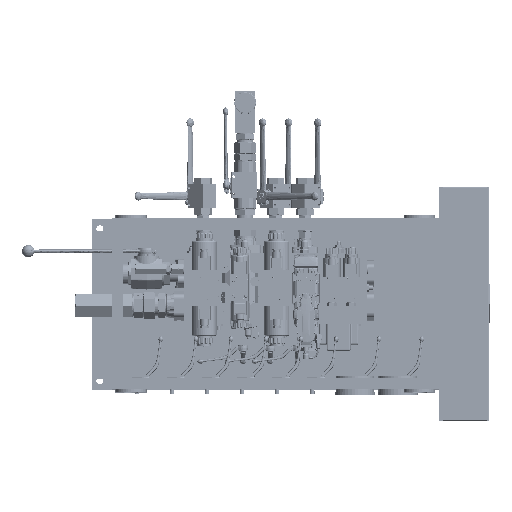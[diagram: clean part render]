
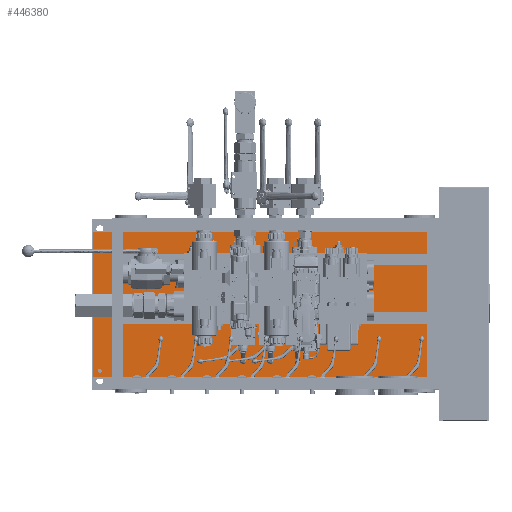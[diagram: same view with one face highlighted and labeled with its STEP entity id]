
A CAD part, top view. The second image highlights one B-rep face of the part: STEP entity #446380.
In plain terms, the highlighted planar face has unit normal (0, 0, 1).
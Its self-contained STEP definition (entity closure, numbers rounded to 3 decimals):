
#14816=CIRCLE('',#467816,5.);
#23050=ORIENTED_EDGE('',*,*,#128668,.F.);
#23051=ORIENTED_EDGE('',*,*,#128661,.T.);
#23052=ORIENTED_EDGE('',*,*,#128664,.T.);
#23053=ORIENTED_EDGE('',*,*,#128666,.T.);
#23054=ORIENTED_EDGE('',*,*,#128667,.T.);
#128661=EDGE_CURVE('',#181488,#181487,#217016,.T.);
#128664=EDGE_CURVE('',#181487,#181489,#217019,.T.);
#128666=EDGE_CURVE('',#181489,#181490,#217021,.T.);
#128667=EDGE_CURVE('',#181490,#181488,#217022,.T.);
#128668=EDGE_CURVE('',#181491,#181491,#14816,.T.);
#181487=VERTEX_POINT('',#589026);
#181488=VERTEX_POINT('',#589028);
#181489=VERTEX_POINT('',#589032);
#181490=VERTEX_POINT('',#589036);
#181491=VERTEX_POINT('',#589042);
#217016=LINE('',#589027,#255515);
#217019=LINE('',#589033,#255518);
#217021=LINE('',#589037,#255520);
#217022=LINE('',#589039,#255521);
#255515=VECTOR('',#495696,1000.);
#255518=VECTOR('',#495701,1000.);
#255520=VECTOR('',#495705,1000.);
#255521=VECTOR('',#495708,1000.);
#293787=EDGE_LOOP('',(#23050));
#293788=EDGE_LOOP('',(#23051,#23052,#23053,#23054));
#318200=FACE_BOUND('',#293787,.T.);
#318201=FACE_BOUND('',#293788,.T.);
#342667=PLANE('',#467815);
#446380=ADVANCED_FACE('',(#318200,#318201),#342667,.T.);
#467815=AXIS2_PLACEMENT_3D('',#589040,#495709,#495710);
#467816=AXIS2_PLACEMENT_3D('',#589041,#495711,#495712);
#495696=DIRECTION('',(1.,0.,0.));
#495701=DIRECTION('',(0.,1.,0.));
#495705=DIRECTION('',(-1.,0.,0.));
#495708=DIRECTION('',(0.,-1.,0.));
#495709=DIRECTION('',(0.,0.,1.));
#495710=DIRECTION('',(1.,0.,0.));
#495711=DIRECTION('',(0.,0.,1.));
#495712=DIRECTION('',(1.,0.,0.));
#589026=CARTESIAN_POINT('',(467.,-187.,153.));
#589027=CARTESIAN_POINT('',(-467.,-187.,153.));
#589028=CARTESIAN_POINT('',(-467.,-187.,153.));
#589032=CARTESIAN_POINT('',(467.,187.,153.));
#589033=CARTESIAN_POINT('',(467.,-187.,153.));
#589036=CARTESIAN_POINT('',(-467.,187.,153.));
#589037=CARTESIAN_POINT('',(467.,187.,153.));
#589039=CARTESIAN_POINT('',(-467.,187.,153.));
#589040=CARTESIAN_POINT('',(0.,0.,153.));
#589041=CARTESIAN_POINT('',(-450.,-170.,153.));
#589042=CARTESIAN_POINT('',(-445.,-170.,153.));
